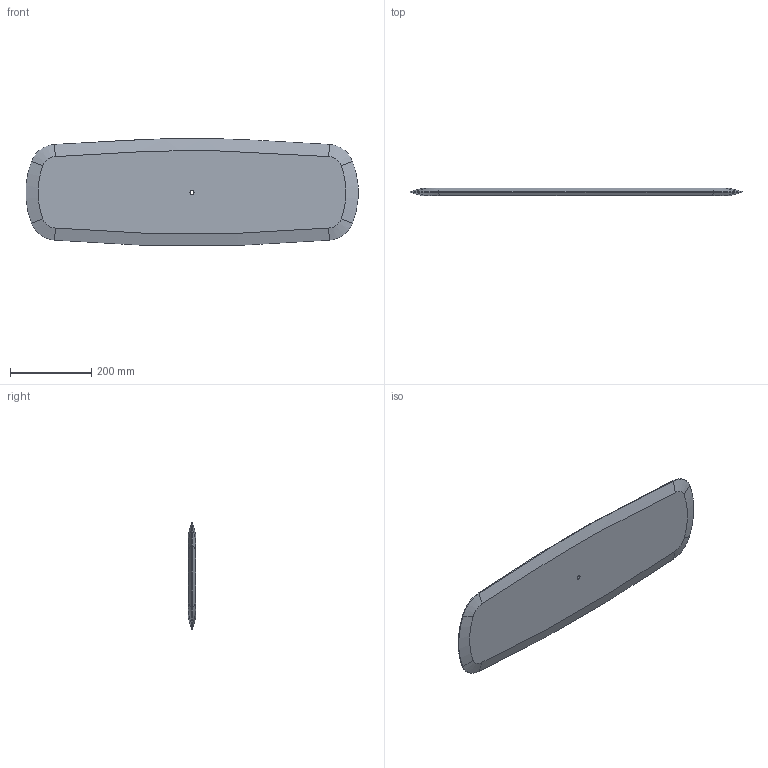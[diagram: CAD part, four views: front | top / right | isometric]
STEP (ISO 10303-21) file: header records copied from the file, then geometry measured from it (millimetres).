
FILE_DESCRIPTION (( 'STEP AP203' ), '1' );
FILE_NAME ('BALDA_S_AIR_CENTRAL.STEP', '2017-05-05T10:51:43', ( 'Usuario' ), ( '' ), 'SwSTEP 2.0', 'SolidWorks 2016', '' );
FILE_SCHEMA (( 'CONFIG_CONTROL_DESIGN' ));
Length unit declared in the file: millimetre
Products named in the file (1): BALDA_S_AIR_CENTRAL
Bounding box: 818.83 x 18 x 263.48 mm (x, y, z)
Volume: 3136704.6 mm3; surface area: 407423.7 mm2
Topology: 1 solids, 1 shells, 28 faces, 62 edges, 36 vertices
Faces by surface type: cone 12, cylinder 8, bspline 6, plane 2
Entity records: 1882 total; most frequent: CARTESIAN_POINT 1212, ORIENTED_EDGE 124, DIRECTION 120, EDGE_CURVE 62, AXIS2_PLACEMENT_3D 51, VERTEX_POINT 36, EDGE_LOOP 30, FACE_OUTER_BOUND 28
